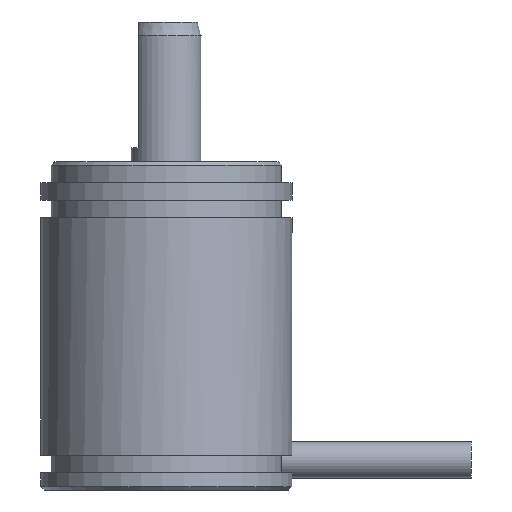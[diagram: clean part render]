
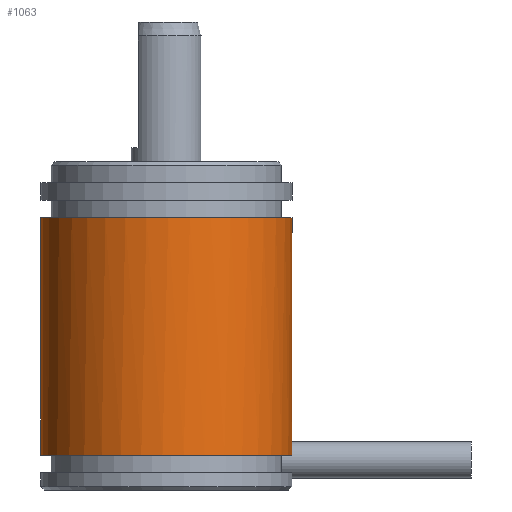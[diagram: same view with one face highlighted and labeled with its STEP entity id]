
A CAD part, left-side view. The second image highlights one B-rep face of the part: STEP entity #1063.
In plain terms, the highlighted cylindrical face has radius 18 mm (diameter 36 mm), a full revolution.
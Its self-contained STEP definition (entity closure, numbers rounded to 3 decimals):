
#886=CARTESIAN_POINT('',(8.59,15.818,5.0));
#887=VERTEX_POINT('',#886);
#904=CARTESIAN_POINT('',(10.26,-14.79,5.0));
#905=VERTEX_POINT('',#904);
#913=CARTESIAN_POINT('',(0.0,0.0,5.0));
#914=DIRECTION('',(0.0,0.0,1.0));
#915=DIRECTION('',(-1.0,0.0,0.0));
#916=AXIS2_PLACEMENT_3D('',#913,#914,#915);
#917=CIRCLE('',#916,18.0);
#918=EDGE_CURVE('',#887,#905,#917,.T.);
#1021=CARTESIAN_POINT('',(0.0,0.0,0.0));
#1022=DIRECTION('',(0.0,0.0,1.0));
#1023=DIRECTION('',(-1.0,0.0,0.0));
#1024=AXIS2_PLACEMENT_3D('',#1021,#1022,#1023);
#1025=CYLINDRICAL_SURFACE('',#1024,18.0);
#1026=CARTESIAN_POINT('',(18.0,0.,39.0));
#1027=VERTEX_POINT('',#1026);
#1028=CARTESIAN_POINT('',(0.0,0.0,39.0));
#1029=DIRECTION('',(0.0,0.0,-1.0));
#1030=DIRECTION('',(-1.0,0.0,0.0));
#1031=AXIS2_PLACEMENT_3D('',#1028,#1029,#1030);
#1032=CIRCLE('',#1031,18.0);
#1033=EDGE_CURVE('',#1027,#1027,#1032,.T.);
#1034=ORIENTED_EDGE('',*,*,#1033,.T.);
#1035=EDGE_LOOP('',(#1034));
#1036=FACE_OUTER_BOUND('',#1035,.T.);
#1037=ORIENTED_EDGE('',*,*,#918,.T.);
#1038=CARTESIAN_POINT('',(10.26,-14.79,7.5));
#1039=VERTEX_POINT('',#1038);
#1040=CARTESIAN_POINT('',(10.26,-14.79,5.0));
#1041=DIRECTION('',(0.0,0.0,1.0));
#1042=VECTOR('',#1041,2.5);
#1043=LINE('',#1040,#1042);
#1044=EDGE_CURVE('',#905,#1039,#1043,.T.);
#1045=ORIENTED_EDGE('',*,*,#1044,.T.);
#1046=CARTESIAN_POINT('',(8.59,15.818,7.5));
#1047=VERTEX_POINT('',#1046);
#1048=CARTESIAN_POINT('',(0.0,0.0,7.5));
#1049=DIRECTION('',(0.0,0.0,1.0));
#1050=DIRECTION('',(-1.0,0.0,0.0));
#1051=AXIS2_PLACEMENT_3D('',#1048,#1049,#1050);
#1052=CIRCLE('',#1051,18.0);
#1053=EDGE_CURVE('',#1039,#1047,#1052,.T.);
#1054=ORIENTED_EDGE('',*,*,#1053,.T.);
#1055=CARTESIAN_POINT('',(8.59,15.818,5.0));
#1056=DIRECTION('',(0.0,0.0,1.0));
#1057=VECTOR('',#1056,2.5);
#1058=LINE('',#1055,#1057);
#1059=EDGE_CURVE('',#887,#1047,#1058,.T.);
#1060=ORIENTED_EDGE('',*,*,#1059,.F.);
#1061=EDGE_LOOP('',(#1037,#1045,#1054,#1060));
#1062=FACE_BOUND('',#1061,.T.);
#1063=ADVANCED_FACE('',(#1036,#1062),#1025,.T.);
